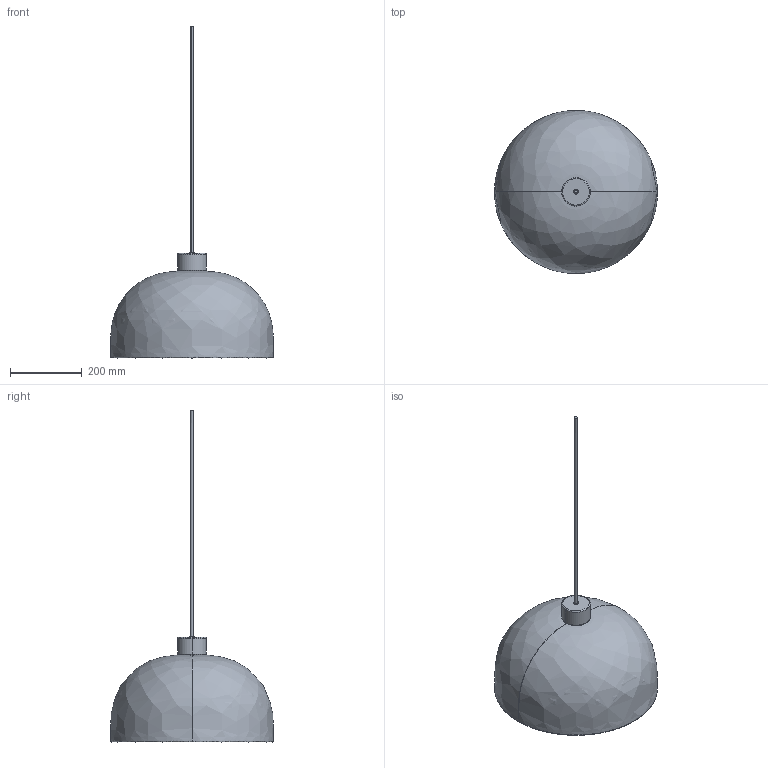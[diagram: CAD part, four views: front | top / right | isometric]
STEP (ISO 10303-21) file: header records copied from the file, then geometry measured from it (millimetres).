
FILE_DESCRIPTION(/* description */ (''),/* implementation_level */ '2;1');
FILE_NAME(/* name */ 'big pendant lamp assembled_16-06-2016',/* time_stamp */ '2016-06-16T13:56:06+02:00',/* author */ (''),/* organization */ (''),/* preprocessor_version */ 'ST-DEVELOPER v15',/* originating_system */ '',/* authorisation */ '');
FILE_SCHEMA (('AUTOMOTIVE_DESIGN'));
Length unit declared in the file: millimetre
Products named in the file (1): Document
Bounding box: 455.82 x 455.82 x 928.34 mm (x, y, z)
Volume: 925978.8 mm3; surface area: 1158795.3 mm2
Topology: 10 solids, 10 shells, 77 faces, 156 edges, 100 vertices
Faces by surface type: bspline 56, plane 21
Entity records: 5719 total; most frequent: CARTESIAN_POINT 4775, ORIENTED_EDGE 312, EDGE_CURVE 156, VERTEX_POINT 100, EDGE_LOOP 92, ADVANCED_FACE 77, FACE_OUTER_BOUND 77, DIRECTION 25
